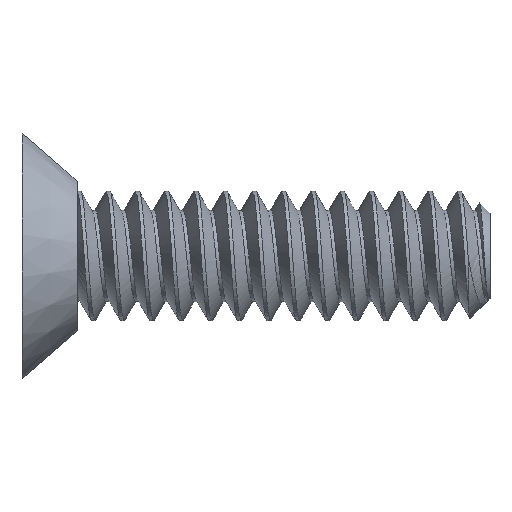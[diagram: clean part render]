
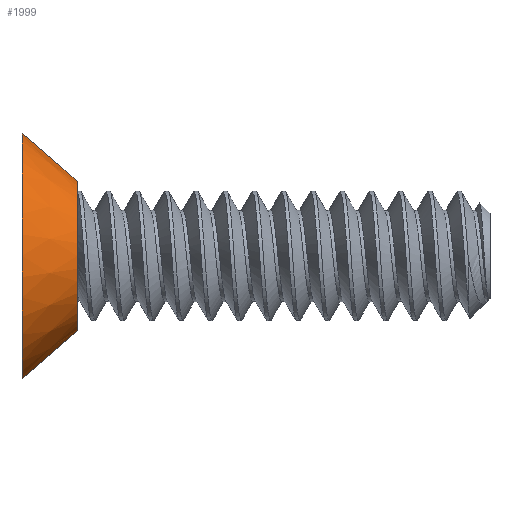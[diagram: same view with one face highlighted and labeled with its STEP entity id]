
A CAD part, top view. The second image highlights one B-rep face of the part: STEP entity #1999.
In plain terms, the highlighted conical face has half-angle 41 degrees and reference radius 2.025 mm.
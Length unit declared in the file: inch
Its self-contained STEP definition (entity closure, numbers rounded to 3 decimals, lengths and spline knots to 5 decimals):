
#43 = EDGE_CURVE ( 'NONE', #2276, #328, #4247, .T. ) ;
#70 = ORIENTED_EDGE ( 'NONE', *, *, #3125, .T. ) ;
#76 = CIRCLE ( 'NONE', #2912, 0.131 ) ;
#126 = AXIS2_PLACEMENT_3D ( 'NONE', #2619, #2302, #1288 ) ;
#180 = CARTESIAN_POINT ( 'NONE',  ( -0.191, 0.07971, 0. ) ) ;
#328 = VERTEX_POINT ( 'NONE', #2554 ) ;
#467 = CARTESIAN_POINT ( 'NONE',  ( -0.191, -0.07971, 0. ) ) ;
#539 = DIRECTION ( 'NONE',  ( -0.755, 0.656, 0. ) ) ;
#545 = CONICAL_SURFACE ( 'NONE', #2361, 0.07971, 0.716 ) ;
#762 = VERTEX_POINT ( 'NONE', #3165 ) ;
#887 = EDGE_CURVE ( 'NONE', #2902, #762, #3662, .T. ) ;
#920 = FACE_OUTER_BOUND ( 'NONE', #2427, .T. ) ;
#1073 = ORIENTED_EDGE ( 'NONE', *, *, #887, .F. ) ;
#1077 = DIRECTION ( 'NONE',  ( -1., 0., 0. ) ) ;
#1263 = CARTESIAN_POINT ( 'NONE',  ( -0.191, -0.07971, 0. ) ) ;
#1287 = ORIENTED_EDGE ( 'NONE', *, *, #2598, .F. ) ;
#1288 = DIRECTION ( 'NONE',  ( 0., -1., 0. ) ) ;
#1724 = DIRECTION ( 'NONE',  ( 0., -1., 0. ) ) ;
#1999 = ADVANCED_FACE ( 'NONE', ( #920 ), #545, .T. ) ;
#2109 = DIRECTION ( 'NONE',  ( -1., 0., 0. ) ) ;
#2239 = DIRECTION ( 'NONE',  ( -0.755, -0.656, 0. ) ) ;
#2276 = VERTEX_POINT ( 'NONE', #3196 ) ;
#2302 = DIRECTION ( 'NONE',  ( -1., 0., 0. ) ) ;
#2361 = AXIS2_PLACEMENT_3D ( 'NONE', #4075, #2109, #1724 ) ;
#2427 = EDGE_LOOP ( 'NONE', ( #70, #3774, #1287, #1073 ) ) ;
#2554 = CARTESIAN_POINT ( 'NONE',  ( -0.25, 0.131, 0. ) ) ;
#2598 = EDGE_CURVE ( 'NONE', #762, #328, #76, .T. ) ;
#2619 = CARTESIAN_POINT ( 'NONE',  ( -0.191, 0., 0. ) ) ;
#2902 = VERTEX_POINT ( 'NONE', #467 ) ;
#2912 = AXIS2_PLACEMENT_3D ( 'NONE', #3689, #1077, #4040 ) ;
#2926 = CIRCLE ( 'NONE', #126, 0.07971 ) ;
#3125 = EDGE_CURVE ( 'NONE', #2902, #2276, #2926, .T. ) ;
#3165 = CARTESIAN_POINT ( 'NONE',  ( -0.25, -0.131, 0. ) ) ;
#3196 = CARTESIAN_POINT ( 'NONE',  ( -0.191, 0.07971, 0. ) ) ;
#3662 = LINE ( 'NONE', #1263, #4089 ) ;
#3689 = CARTESIAN_POINT ( 'NONE',  ( -0.25, 0., 0. ) ) ;
#3774 = ORIENTED_EDGE ( 'NONE', *, *, #43, .T. ) ;
#3973 = VECTOR ( 'NONE', #539, 39.37008 ) ;
#4040 = DIRECTION ( 'NONE',  ( 0., -1., 0. ) ) ;
#4075 = CARTESIAN_POINT ( 'NONE',  ( -0.191, 0., 0. ) ) ;
#4089 = VECTOR ( 'NONE', #2239, 39.37008 ) ;
#4247 = LINE ( 'NONE', #180, #3973 ) ;
